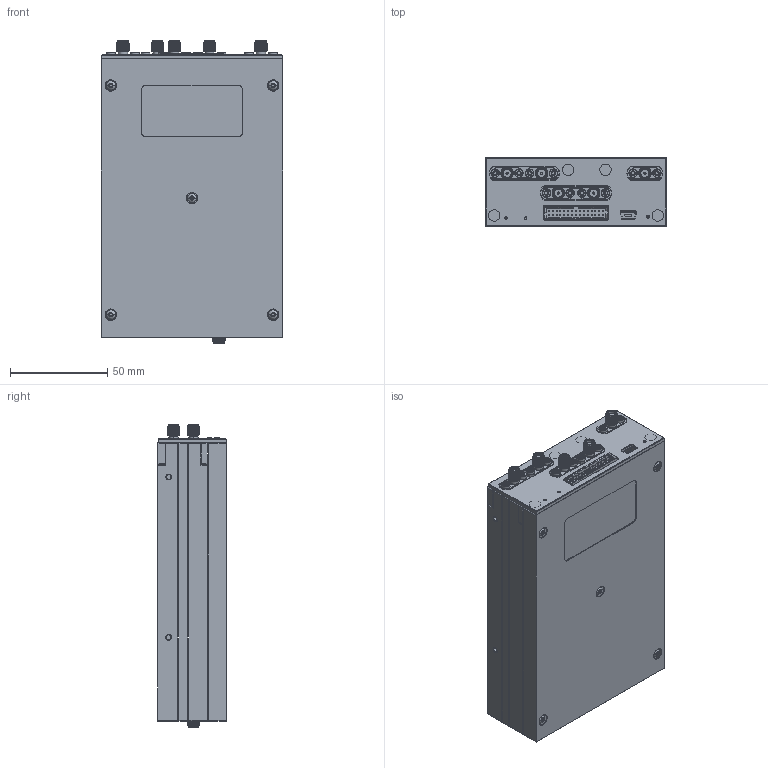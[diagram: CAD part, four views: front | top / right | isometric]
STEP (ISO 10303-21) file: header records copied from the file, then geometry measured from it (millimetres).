
FILE_DESCRIPTION((''),'2;1');
FILE_NAME('ASSY_SC5308A_SC5408A_SW0005','2019-12-06T17:10:17',('sci'),(''),'CREO PARAMETRIC BY PTC INC, 2019080','CREO PARAMETRIC BY PTC INC, 2019080','');
FILE_SCHEMA(('CONFIG_CONTROL_DESIGN'));
Products named in the file (1): ASSY_SC5308A_SC5408A_SW0005
Bounding box: 93.65 x 35.56 x 156.34 mm (x, y, z)
Surface area: 74401.3 mm2 (no closed solid volume)
Topology: 0 solids, 301 shells, 1275 faces, 4919 edges, 3849 vertices
Faces by surface type: plane 387, cone 297, cylinder 262, bspline 215, sphere 66, torus 48
Entity records: 102894 total; most frequent: CARTESIAN_POINT 64678, DIRECTION 7537, ORIENTED_EDGE 6649, EDGE_CURVE 4919, VERTEX_POINT 3849, AXIS2_PLACEMENT_3D 2826, VECTOR 1885, LINE 1885
